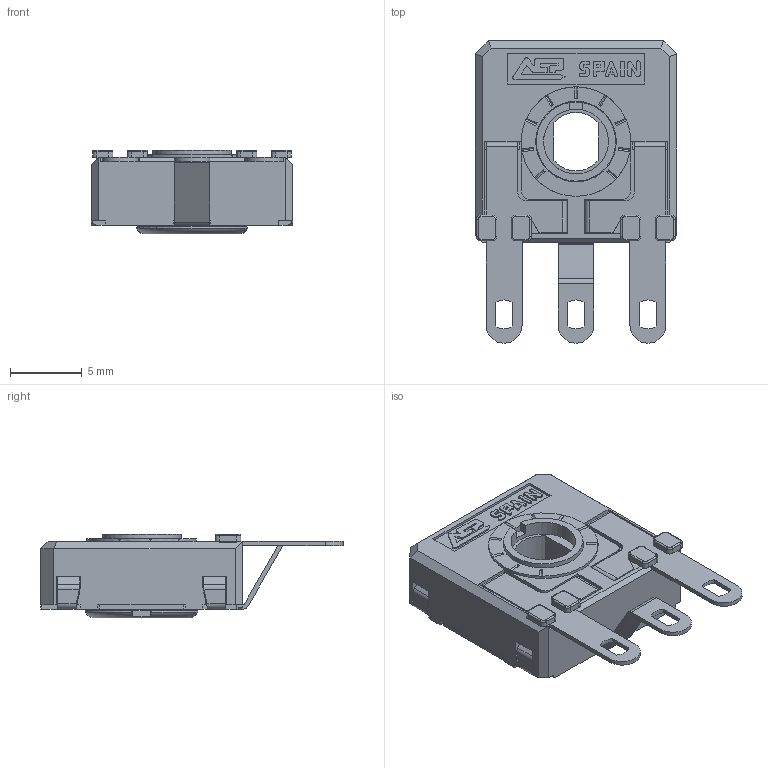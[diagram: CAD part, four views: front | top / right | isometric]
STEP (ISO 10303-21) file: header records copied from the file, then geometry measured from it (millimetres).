
FILE_DESCRIPTION(/* description */ (''),/* implementation_level */ '2;1');
FILE_NAME(/* name */ '\\SERVERACP\intercambio\Ignacio Santa Cecilia\Nueva WEB 2025\CA14 - CE14\CA14ZHC0.stp',/* time_stamp */ '2025-07-01T10:32:49+02:00',/* author */ ('CEM'),/* organization */ (''),/* preprocessor_version */ 'ST-DEVELOPER v17',/* originating_system */ 'Autodesk Inventor 2018',/* authorisation */ '');
FILE_SCHEMA (('AUTOMOTIVE_DESIGN { 1 0 10303 214 3 1 1 }'));
Length unit declared in the file: millimetre
Products named in the file (1): CARCASA CA14 PGA
Bounding box: 14 x 21 x 5.8 mm (x, y, z)
Volume: 535.7 mm3; surface area: 1490.3 mm2
Topology: 1 solids, 1 shells, 657 faces, 1855 edges, 1194 vertices
Faces by surface type: plane 476, cylinder 144, torus 23, bspline 8, cone 6
Full cylindrical faces by diameter (mm): 4.5 x1, 5.5 x1, 5.6 x1, 5.752 x1, 6.8 x1, 7.6 x1
Entity records: 21481 total; most frequent: CARTESIAN_POINT 4004, ORIENTED_EDGE 3710, DIRECTION 3484, EDGE_CURVE 1855, LINE 1436, VECTOR 1436, VERTEX_POINT 1194, AXIS2_PLACEMENT_3D 1024
